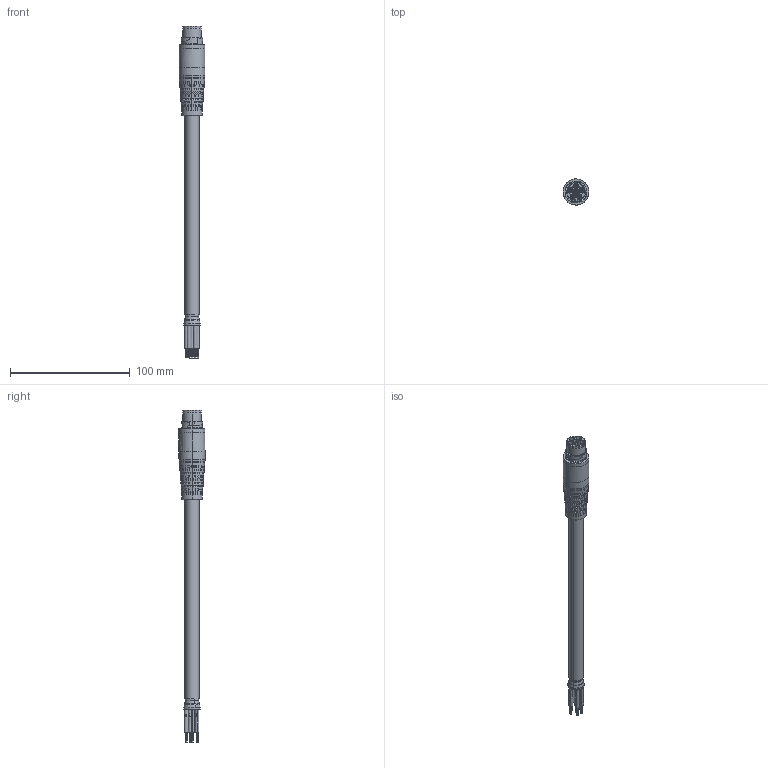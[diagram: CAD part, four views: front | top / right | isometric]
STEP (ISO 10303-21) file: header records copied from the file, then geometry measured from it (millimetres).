
FILE_DESCRIPTION (( 'STEP AP214' ), '1' );
FILE_NAME ('W-TEC 15M STI-GLATT.STEP', '2021-07-29T14:20:33', ( '' ), ( '' ), 'SwSTEP 2.0', 'SolidWorks 2021', '' );
FILE_SCHEMA (( 'AUTOMOTIVE_DESIGN' ));
Length unit declared in the file: millimetre
Products named in the file (1): W-TEC 15M STI-GLATT
Bounding box: 21.72 x 21.83 x 277.58 mm (x, y, z)
Surface area: 19461.8 mm2 (no closed solid volume)
Topology: 0 solids, 10 shells, 1740 faces, 4109 edges, 2650 vertices
Faces by surface type: cylinder 827, plane 530, bspline 314, cone 55, torus 14
Entity records: 81855 total; most frequent: CARTESIAN_POINT 24923, DIRECTION 8211, ORIENTED_EDGE 8019, EDGE_CURVE 4032, AXIS2_PLACEMENT_3D 3476, VERTEX_POINT 2650, EDGE_LOOP 2106, CIRCLE 2049
